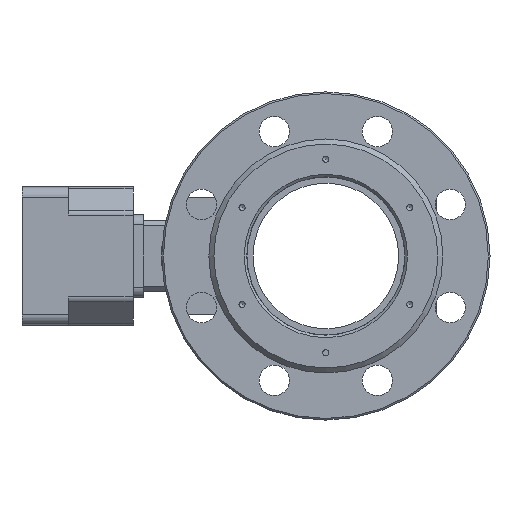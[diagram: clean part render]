
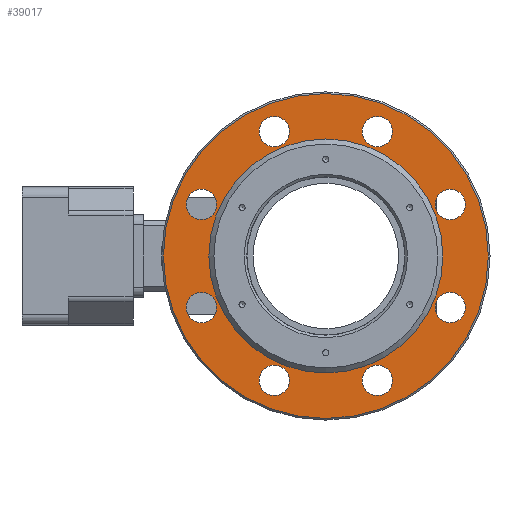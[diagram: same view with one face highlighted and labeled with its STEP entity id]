
A CAD part, left-side view. The second image highlights one B-rep face of the part: STEP entity #39017.
In plain terms, the highlighted planar face has unit normal (-1, 0, 0).
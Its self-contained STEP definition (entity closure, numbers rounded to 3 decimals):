
#1477=FACE_BOUND('',#11958,.T.);
#1478=FACE_BOUND('',#11959,.T.);
#1479=FACE_BOUND('',#11960,.T.);
#1480=FACE_BOUND('',#11961,.T.);
#1481=FACE_BOUND('',#11962,.T.);
#1482=FACE_BOUND('',#11963,.T.);
#1483=FACE_BOUND('',#11964,.T.);
#1484=FACE_BOUND('',#11965,.T.);
#1485=FACE_BOUND('',#11966,.T.);
#9813=FACE_OUTER_BOUND('',#11957,.T.);
#11957=EDGE_LOOP('',(#24709,#24710));
#11958=EDGE_LOOP('',(#24711));
#11959=EDGE_LOOP('',(#24712));
#11960=EDGE_LOOP('',(#24713));
#11961=EDGE_LOOP('',(#24714));
#11962=EDGE_LOOP('',(#24715));
#11963=EDGE_LOOP('',(#24716));
#11964=EDGE_LOOP('',(#24717));
#11965=EDGE_LOOP('',(#24718));
#11966=EDGE_LOOP('',(#24719,#24720));
#14334=CIRCLE('',#41233,9.);
#14337=CIRCLE('',#41237,9.);
#14340=CIRCLE('',#41241,9.);
#14343=CIRCLE('',#41245,9.);
#14346=CIRCLE('',#41249,9.);
#14349=CIRCLE('',#41253,9.);
#14352=CIRCLE('',#41257,9.);
#14355=CIRCLE('',#41261,9.);
#14368=CIRCLE('',#41281,96.5);
#14369=CIRCLE('',#41282,96.5);
#14370=CIRCLE('',#41284,69.5);
#14371=CIRCLE('',#41285,69.5);
#15168=VERTEX_POINT('',#52770);
#15171=VERTEX_POINT('',#52778);
#15174=VERTEX_POINT('',#52786);
#15177=VERTEX_POINT('',#52794);
#15180=VERTEX_POINT('',#52802);
#15183=VERTEX_POINT('',#52810);
#15186=VERTEX_POINT('',#52818);
#15189=VERTEX_POINT('',#52826);
#15202=VERTEX_POINT('',#52865);
#15203=VERTEX_POINT('',#52866);
#15204=VERTEX_POINT('',#52871);
#15205=VERTEX_POINT('',#52872);
#18894=EDGE_CURVE('',#15168,#15168,#14334,.T.);
#18898=EDGE_CURVE('',#15171,#15171,#14337,.T.);
#18902=EDGE_CURVE('',#15174,#15174,#14340,.T.);
#18906=EDGE_CURVE('',#15177,#15177,#14343,.T.);
#18910=EDGE_CURVE('',#15180,#15180,#14346,.T.);
#18914=EDGE_CURVE('',#15183,#15183,#14349,.T.);
#18918=EDGE_CURVE('',#15186,#15186,#14352,.T.);
#18922=EDGE_CURVE('',#15189,#15189,#14355,.T.);
#18940=EDGE_CURVE('',#15202,#15203,#14368,.T.);
#18941=EDGE_CURVE('',#15203,#15202,#14369,.T.);
#18943=EDGE_CURVE('',#15204,#15205,#14370,.T.);
#18944=EDGE_CURVE('',#15205,#15204,#14371,.T.);
#24709=ORIENTED_EDGE('',*,*,#18940,.T.);
#24710=ORIENTED_EDGE('',*,*,#18941,.T.);
#24711=ORIENTED_EDGE('',*,*,#18894,.T.);
#24712=ORIENTED_EDGE('',*,*,#18898,.T.);
#24713=ORIENTED_EDGE('',*,*,#18902,.T.);
#24714=ORIENTED_EDGE('',*,*,#18906,.T.);
#24715=ORIENTED_EDGE('',*,*,#18910,.T.);
#24716=ORIENTED_EDGE('',*,*,#18914,.T.);
#24717=ORIENTED_EDGE('',*,*,#18918,.T.);
#24718=ORIENTED_EDGE('',*,*,#18922,.T.);
#24719=ORIENTED_EDGE('',*,*,#18943,.F.);
#24720=ORIENTED_EDGE('',*,*,#18944,.F.);
#35537=PLANE('',#41283);
#39017=ADVANCED_FACE('',(#9813,#1477,#1478,#1479,#1480,#1481,#1482,#1483,
#1484,#1485),#35537,.T.);
#41233=AXIS2_PLACEMENT_3D('',#52772,#43935,#43936);
#41237=AXIS2_PLACEMENT_3D('',#52780,#43944,#43945);
#41241=AXIS2_PLACEMENT_3D('',#52788,#43953,#43954);
#41245=AXIS2_PLACEMENT_3D('',#52796,#43962,#43963);
#41249=AXIS2_PLACEMENT_3D('',#52804,#43971,#43972);
#41253=AXIS2_PLACEMENT_3D('',#52812,#43980,#43981);
#41257=AXIS2_PLACEMENT_3D('',#52820,#43989,#43990);
#41261=AXIS2_PLACEMENT_3D('',#52828,#43998,#43999);
#41281=AXIS2_PLACEMENT_3D('',#52867,#44043,#44044);
#41282=AXIS2_PLACEMENT_3D('',#52868,#44045,#44046);
#41283=AXIS2_PLACEMENT_3D('',#52870,#44048,#44049);
#41284=AXIS2_PLACEMENT_3D('',#52873,#44050,#44051);
#41285=AXIS2_PLACEMENT_3D('',#52874,#44052,#44053);
#43935=DIRECTION('center_axis',(1.,0.,0.));
#43936=DIRECTION('ref_axis',(0.,0.,
-1.));
#43944=DIRECTION('center_axis',(1.,0.,0.));
#43945=DIRECTION('ref_axis',(0.,0.,
-1.));
#43953=DIRECTION('center_axis',(1.,0.,0.));
#43954=DIRECTION('ref_axis',(0.,0.,
-1.));
#43962=DIRECTION('center_axis',(1.,0.,0.));
#43963=DIRECTION('ref_axis',(0.,0.,
-1.));
#43971=DIRECTION('center_axis',(1.,0.,0.));
#43972=DIRECTION('ref_axis',(0.,0.,
-1.));
#43980=DIRECTION('center_axis',(1.,0.,0.));
#43981=DIRECTION('ref_axis',(0.,0.,
-1.));
#43989=DIRECTION('center_axis',(1.,0.,0.));
#43990=DIRECTION('ref_axis',(0.,0.,
-1.));
#43998=DIRECTION('center_axis',(1.,0.,0.));
#43999=DIRECTION('ref_axis',(0.,0.,
-1.));
#44043=DIRECTION('center_axis',(-1.,0.,0.));
#44044=DIRECTION('ref_axis',(0.,1.,0.));
#44045=DIRECTION('center_axis',(-1.,0.,0.));
#44046=DIRECTION('ref_axis',(0.,1.,0.));
#44048=DIRECTION('center_axis',(-1.,0.,0.));
#44049=DIRECTION('ref_axis',(0.,0.,
1.));
#44050=DIRECTION('center_axis',(-1.,0.,0.));
#44051=DIRECTION('ref_axis',(0.,1.,0.));
#44052=DIRECTION('center_axis',(-1.,0.,0.));
#44053=DIRECTION('ref_axis',(0.,1.,0.));
#52770=CARTESIAN_POINT('',(-95.,-30.615,-64.91));
#52772=CARTESIAN_POINT('Origin',(-95.,-30.615,-73.91));
#52778=CARTESIAN_POINT('',(-95.,-73.91,39.615));
#52780=CARTESIAN_POINT('Origin',(-95.,-73.91,30.615));
#52786=CARTESIAN_POINT('',(-95.,30.615,82.91));
#52788=CARTESIAN_POINT('Origin',(-95.,30.615,73.91));
#52794=CARTESIAN_POINT('',(-95.,73.91,-21.615));
#52796=CARTESIAN_POINT('Origin',(-95.,73.91,-30.615));
#52802=CARTESIAN_POINT('',(-95.,73.91,39.615));
#52804=CARTESIAN_POINT('Origin',(-95.,73.91,30.615));
#52810=CARTESIAN_POINT('',(-95.,-30.615,82.91));
#52812=CARTESIAN_POINT('Origin',(-95.,-30.615,73.91));
#52818=CARTESIAN_POINT('',(-95.,-73.91,-21.615));
#52820=CARTESIAN_POINT('Origin',(-95.,-73.91,-30.615));
#52826=CARTESIAN_POINT('',(-95.,30.615,-64.91));
#52828=CARTESIAN_POINT('Origin',(-95.,30.615,-73.91));
#52865=CARTESIAN_POINT('',(-95.,96.5,0.));
#52866=CARTESIAN_POINT('',(-95.,-96.5,0.));
#52867=CARTESIAN_POINT('Origin',(-95.,0.,
0.));
#52868=CARTESIAN_POINT('Origin',(-95.,0.,
0.));
#52870=CARTESIAN_POINT('Origin',(-95.,83.,0.));
#52871=CARTESIAN_POINT('',(-95.,69.5,0.));
#52872=CARTESIAN_POINT('',(-95.,-69.5,0.));
#52873=CARTESIAN_POINT('Origin',(-95.,0.,
0.));
#52874=CARTESIAN_POINT('Origin',(-95.,0.,
0.));
